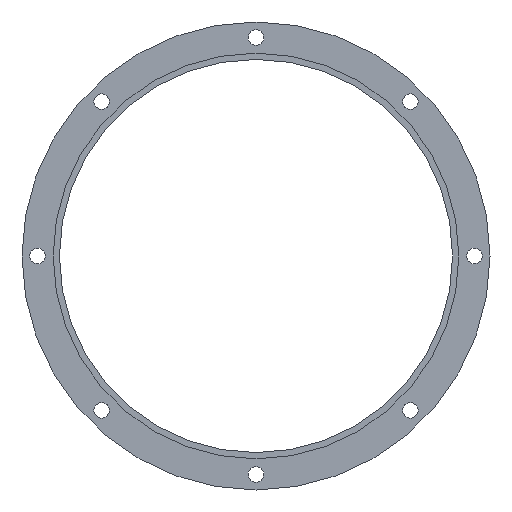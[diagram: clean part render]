
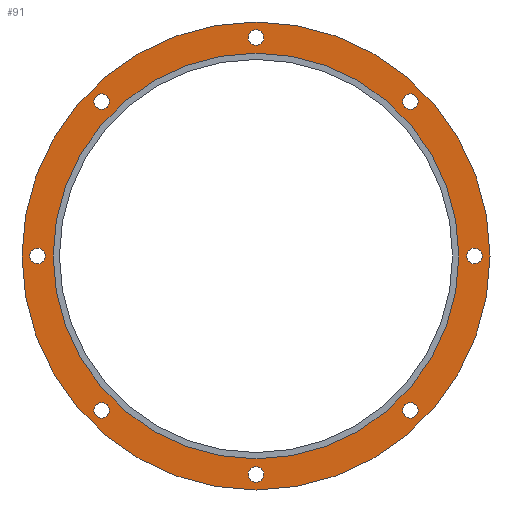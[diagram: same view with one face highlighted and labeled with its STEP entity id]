
A CAD part, front view. The second image highlights one B-rep face of the part: STEP entity #91.
In plain terms, the highlighted planar face has unit normal (0, -1, 0).
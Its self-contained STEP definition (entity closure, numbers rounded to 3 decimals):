
#91=ADVANCED_FACE('',(#179,#180,#181,#182,#183,#184,#185,#186,#187,#188),#189,.F.);
#179=FACE_BOUND('',#280,.T.);
#180=FACE_BOUND('',#281,.T.);
#181=FACE_BOUND('',#282,.T.);
#182=FACE_BOUND('',#283,.T.);
#183=FACE_BOUND('',#284,.T.);
#184=FACE_BOUND('',#285,.T.);
#185=FACE_BOUND('',#286,.T.);
#186=FACE_BOUND('',#287,.T.);
#187=FACE_OUTER_BOUND('',#288,.T.);
#188=FACE_BOUND('',#289,.T.);
#189=PLANE('',#290);
#280=EDGE_LOOP('',(#480,#481));
#281=EDGE_LOOP('',(#482,#483));
#282=EDGE_LOOP('',(#484,#485));
#283=EDGE_LOOP('',(#486,#487));
#284=EDGE_LOOP('',(#488,#489));
#285=EDGE_LOOP('',(#490,#491));
#286=EDGE_LOOP('',(#492,#493));
#287=EDGE_LOOP('',(#494,#495));
#288=EDGE_LOOP('',(#496,#497));
#289=EDGE_LOOP('',(#498,#499));
#290=AXIS2_PLACEMENT_3D('',#500,#501,#502);
#480=ORIENTED_EDGE('',*,*,#595,.T.);
#481=ORIENTED_EDGE('',*,*,#600,.T.);
#482=ORIENTED_EDGE('',*,*,#590,.T.);
#483=ORIENTED_EDGE('',*,*,#603,.T.);
#484=ORIENTED_EDGE('',*,*,#585,.T.);
#485=ORIENTED_EDGE('',*,*,#606,.T.);
#486=ORIENTED_EDGE('',*,*,#580,.T.);
#487=ORIENTED_EDGE('',*,*,#609,.T.);
#488=ORIENTED_EDGE('',*,*,#575,.T.);
#489=ORIENTED_EDGE('',*,*,#612,.T.);
#490=ORIENTED_EDGE('',*,*,#570,.T.);
#491=ORIENTED_EDGE('',*,*,#615,.T.);
#492=ORIENTED_EDGE('',*,*,#565,.T.);
#493=ORIENTED_EDGE('',*,*,#618,.T.);
#494=ORIENTED_EDGE('',*,*,#560,.T.);
#495=ORIENTED_EDGE('',*,*,#621,.T.);
#496=ORIENTED_EDGE('',*,*,#547,.F.);
#497=ORIENTED_EDGE('',*,*,#629,.F.);
#498=ORIENTED_EDGE('',*,*,#552,.F.);
#499=ORIENTED_EDGE('',*,*,#626,.F.);
#500=CARTESIAN_POINT('',(0.0,-4.0,0.));
#501=DIRECTION('',(0.0,1.0,0.));
#502=DIRECTION('',(1.0,0.0,0.0));
#547=EDGE_CURVE('',#640,#636,#642,.T.);
#552=EDGE_CURVE('',#649,#645,#651,.T.);
#560=EDGE_CURVE('',#665,#662,#666,.T.);
#565=EDGE_CURVE('',#674,#671,#675,.T.);
#570=EDGE_CURVE('',#683,#680,#684,.T.);
#575=EDGE_CURVE('',#692,#689,#693,.T.);
#580=EDGE_CURVE('',#701,#698,#702,.T.);
#585=EDGE_CURVE('',#710,#707,#711,.T.);
#590=EDGE_CURVE('',#719,#716,#720,.T.);
#595=EDGE_CURVE('',#728,#725,#729,.T.);
#600=EDGE_CURVE('',#725,#728,#735,.T.);
#603=EDGE_CURVE('',#716,#719,#738,.T.);
#606=EDGE_CURVE('',#707,#710,#741,.T.);
#609=EDGE_CURVE('',#698,#701,#744,.T.);
#612=EDGE_CURVE('',#689,#692,#747,.T.);
#615=EDGE_CURVE('',#680,#683,#750,.T.);
#618=EDGE_CURVE('',#671,#674,#753,.T.);
#621=EDGE_CURVE('',#662,#665,#756,.T.);
#626=EDGE_CURVE('',#645,#649,#761,.T.);
#629=EDGE_CURVE('',#636,#640,#764,.T.);
#636=VERTEX_POINT('',#771);
#640=VERTEX_POINT('',#776);
#642=CIRCLE('',#779,150.0);
#645=VERTEX_POINT('',#782);
#649=VERTEX_POINT('',#787);
#651=CIRCLE('',#790,130.0);
#662=VERTEX_POINT('',#803);
#665=VERTEX_POINT('',#807);
#666=CIRCLE('',#808,5.0);
#671=VERTEX_POINT('',#814);
#674=VERTEX_POINT('',#818);
#675=CIRCLE('',#819,5.0);
#680=VERTEX_POINT('',#825);
#683=VERTEX_POINT('',#829);
#684=CIRCLE('',#830,5.0);
#689=VERTEX_POINT('',#836);
#692=VERTEX_POINT('',#840);
#693=CIRCLE('',#841,5.0);
#698=VERTEX_POINT('',#847);
#701=VERTEX_POINT('',#851);
#702=CIRCLE('',#852,5.0);
#707=VERTEX_POINT('',#858);
#710=VERTEX_POINT('',#862);
#711=CIRCLE('',#863,5.0);
#716=VERTEX_POINT('',#869);
#719=VERTEX_POINT('',#873);
#720=CIRCLE('',#874,5.0);
#725=VERTEX_POINT('',#880);
#728=VERTEX_POINT('',#884);
#729=CIRCLE('',#885,5.0);
#735=CIRCLE('',#892,5.0);
#738=CIRCLE('',#895,5.0);
#741=CIRCLE('',#898,5.0);
#744=CIRCLE('',#901,5.0);
#747=CIRCLE('',#904,5.0);
#750=CIRCLE('',#907,5.0);
#753=CIRCLE('',#910,5.0);
#756=CIRCLE('',#913,5.0);
#761=CIRCLE('',#918,130.0);
#764=CIRCLE('',#921,150.0);
#771=CARTESIAN_POINT('',(150.0,-4.0,0.));
#776=CARTESIAN_POINT('',(-150.0,-4.0,0.));
#779=AXIS2_PLACEMENT_3D('',#931,#932,#933);
#782=CARTESIAN_POINT('',(130.0,-4.0,0.));
#787=CARTESIAN_POINT('',(-130.0,-4.0,0.));
#790=AXIS2_PLACEMENT_3D('',#939,#940,#941);
#803=CARTESIAN_POINT('',(145.0,-4.0,0.));
#807=CARTESIAN_POINT('',(135.0,-4.0,0.));
#808=AXIS2_PLACEMENT_3D('',#951,#952,#953);
#814=CARTESIAN_POINT('',(102.53,-4.,102.53));
#818=CARTESIAN_POINT('',(95.459,-4.,95.459));
#819=AXIS2_PLACEMENT_3D('',#959,#960,#961);
#825=CARTESIAN_POINT('',(0.,-4.,145.0));
#829=CARTESIAN_POINT('',(0.,-4.,135.0));
#830=AXIS2_PLACEMENT_3D('',#967,#968,#969);
#836=CARTESIAN_POINT('',(-102.53,-4.,102.53));
#840=CARTESIAN_POINT('',(-95.459,-4.,95.459));
#841=AXIS2_PLACEMENT_3D('',#975,#976,#977);
#847=CARTESIAN_POINT('',(-145.0,-4.0,0.));
#851=CARTESIAN_POINT('',(-135.0,-4.0,0.));
#852=AXIS2_PLACEMENT_3D('',#983,#984,#985);
#858=CARTESIAN_POINT('',(-102.53,-4.,-102.53));
#862=CARTESIAN_POINT('',(-95.459,-4.,-95.459));
#863=AXIS2_PLACEMENT_3D('',#991,#992,#993);
#869=CARTESIAN_POINT('',(0.,-4.,-145.0));
#873=CARTESIAN_POINT('',(0.,-4.,-135.0));
#874=AXIS2_PLACEMENT_3D('',#999,#1000,#1001);
#880=CARTESIAN_POINT('',(102.53,-4.,-102.53));
#884=CARTESIAN_POINT('',(95.459,-4.,-95.459));
#885=AXIS2_PLACEMENT_3D('',#1007,#1008,#1009);
#892=AXIS2_PLACEMENT_3D('',#1017,#1018,#1019);
#895=AXIS2_PLACEMENT_3D('',#1023,#1024,#1025);
#898=AXIS2_PLACEMENT_3D('',#1029,#1030,#1031);
#901=AXIS2_PLACEMENT_3D('',#1035,#1036,#1037);
#904=AXIS2_PLACEMENT_3D('',#1041,#1042,#1043);
#907=AXIS2_PLACEMENT_3D('',#1047,#1048,#1049);
#910=AXIS2_PLACEMENT_3D('',#1053,#1054,#1055);
#913=AXIS2_PLACEMENT_3D('',#1059,#1060,#1061);
#918=AXIS2_PLACEMENT_3D('',#1068,#1069,#1070);
#921=AXIS2_PLACEMENT_3D('',#1074,#1075,#1076);
#931=CARTESIAN_POINT('',(0.0,-4.0,0.));
#932=DIRECTION('',(0.0,1.0,0.));
#933=DIRECTION('',(1.0,0.0,0.0));
#939=CARTESIAN_POINT('',(0.0,-4.0,0.));
#940=DIRECTION('',(0.0,-1.0,0.));
#941=DIRECTION('',(1.0,0.0,0.0));
#951=CARTESIAN_POINT('',(140.0,-4.0,0.));
#952=DIRECTION('',(0.0,1.0,0.));
#953=DIRECTION('',(1.0,0.0,0.0));
#959=CARTESIAN_POINT('',(98.995,-4.,98.995));
#960=DIRECTION('',(0.0,1.0,0.));
#961=DIRECTION('',(0.707,0.,0.707));
#967=CARTESIAN_POINT('',(0.,-4.,140.0));
#968=DIRECTION('',(0.0,1.0,0.));
#969=DIRECTION('',(0.,0.,1.0));
#975=CARTESIAN_POINT('',(-98.995,-4.,98.995));
#976=DIRECTION('',(0.0,1.0,0.));
#977=DIRECTION('',(-0.707,0.,0.707));
#983=CARTESIAN_POINT('',(-140.0,-4.0,0.));
#984=DIRECTION('',(0.0,1.0,0.));
#985=DIRECTION('',(-1.0,0.,0.));
#991=CARTESIAN_POINT('',(-98.995,-4.,-98.995));
#992=DIRECTION('',(0.,1.0,0.));
#993=DIRECTION('',(-0.707,0.,-0.707));
#999=CARTESIAN_POINT('',(0.,-4.,-140.0));
#1000=DIRECTION('',(0.0,1.0,0.));
#1001=DIRECTION('',(0.,0.,-1.0));
#1007=CARTESIAN_POINT('',(98.995,-4.,-98.995));
#1008=DIRECTION('',(0.0,1.0,0.));
#1009=DIRECTION('',(0.707,0.,-0.707));
#1017=CARTESIAN_POINT('',(98.995,-4.,-98.995));
#1018=DIRECTION('',(0.0,1.0,0.));
#1019=DIRECTION('',(0.707,0.,-0.707));
#1023=CARTESIAN_POINT('',(0.,-4.,-140.0));
#1024=DIRECTION('',(0.0,1.0,0.));
#1025=DIRECTION('',(0.,0.,-1.0));
#1029=CARTESIAN_POINT('',(-98.995,-4.,-98.995));
#1030=DIRECTION('',(0.,1.0,0.));
#1031=DIRECTION('',(-0.707,0.,-0.707));
#1035=CARTESIAN_POINT('',(-140.0,-4.0,0.));
#1036=DIRECTION('',(0.0,1.0,0.));
#1037=DIRECTION('',(-1.0,0.,0.));
#1041=CARTESIAN_POINT('',(-98.995,-4.,98.995));
#1042=DIRECTION('',(0.0,1.0,0.));
#1043=DIRECTION('',(-0.707,0.,0.707));
#1047=CARTESIAN_POINT('',(0.,-4.,140.0));
#1048=DIRECTION('',(0.0,1.0,0.));
#1049=DIRECTION('',(0.,0.,1.0));
#1053=CARTESIAN_POINT('',(98.995,-4.,98.995));
#1054=DIRECTION('',(0.0,1.0,0.));
#1055=DIRECTION('',(0.707,0.,0.707));
#1059=CARTESIAN_POINT('',(140.0,-4.0,0.));
#1060=DIRECTION('',(0.0,1.0,0.));
#1061=DIRECTION('',(1.0,0.0,0.0));
#1068=CARTESIAN_POINT('',(0.0,-4.0,0.));
#1069=DIRECTION('',(0.0,-1.0,0.));
#1070=DIRECTION('',(1.0,0.0,0.0));
#1074=CARTESIAN_POINT('',(0.0,-4.0,0.));
#1075=DIRECTION('',(0.0,1.0,0.));
#1076=DIRECTION('',(1.0,0.0,0.0));
